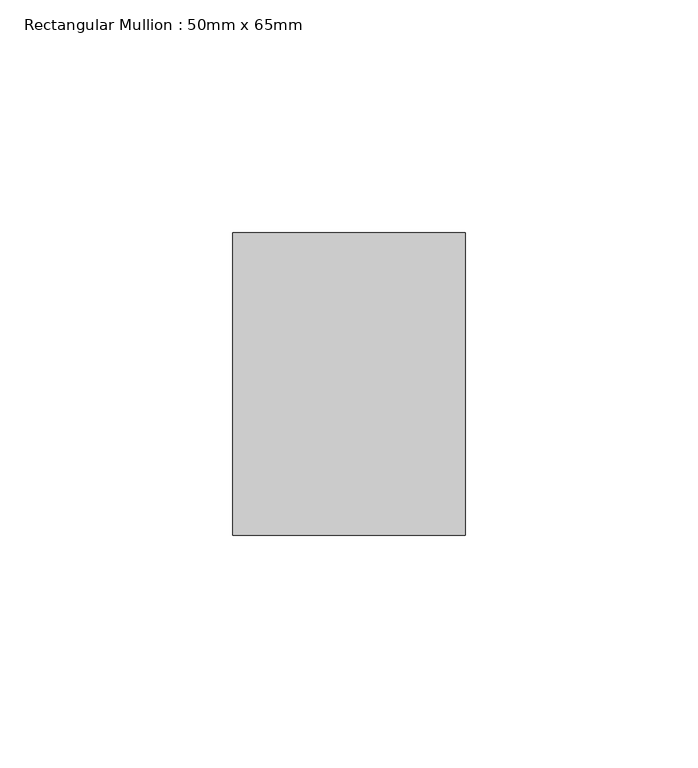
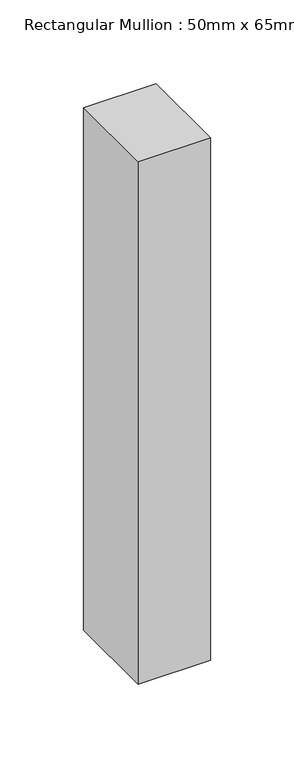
"""IFC4 building model written with IfcOpenShell, lengths in millimetres: member geometry, Rectangular Mullion : 50mm x 65mm."""

from ifc_helpers import new_model, si_unit, frame, origin, place, context, project, spatial, polyline, outline, extrude, source, transform, mapped, element, save


def rectangular_mullion_50mm_x_65mm_bbd437ae(model_context):
    return source(origin(), model_context, "Body", "SweptSolid", [
        extrude(outline(polyline([(0.0, 32.5), (0.0, -32.5), (-50.0, -32.5), (-50.0, 32.5), (0.0, 32.5)])), frame((0.0, 0.0, -380.8658889), z_axis=(0.0, 0.0, 1.0), x_axis=(1.0, 0.0, 0.0)), (0.0, 0.0, 1.0), 380.8658889),
    ])


if __name__ == "__main__":
    model = new_model("IFC4")
    model_context = context("Model", 3, world=origin())
    ifc_project = project(units=[si_unit("LENGTHUNIT", "METRE", prefix="MILLI")], contexts=[model_context])
    site = spatial("IfcSite", under=ifc_project)
    building = spatial("IfcBuilding", under=site)
    placement = place(None, origin())
    rectangular_mullion_50mm_x_65mm_shape = rectangular_mullion_50mm_x_65mm_bbd437ae(model_context)
    element("IfcMember", 1, ObjectType="Rectangular Mullion : 50mm x 65mm", at=placement, inside=building, context=model_context, shape_type="MappedRepresentation", body=[
        mapped(rectangular_mullion_50mm_x_65mm_shape, transform((0.0, 0.0, 0.0), x_axis=(1.0, 0.0, 0.0), y_axis=(0.0, 1.0, 0.0), z_axis=(0.0, 0.0, 1.0))),
    ])
    save(model, "model.ifc")
